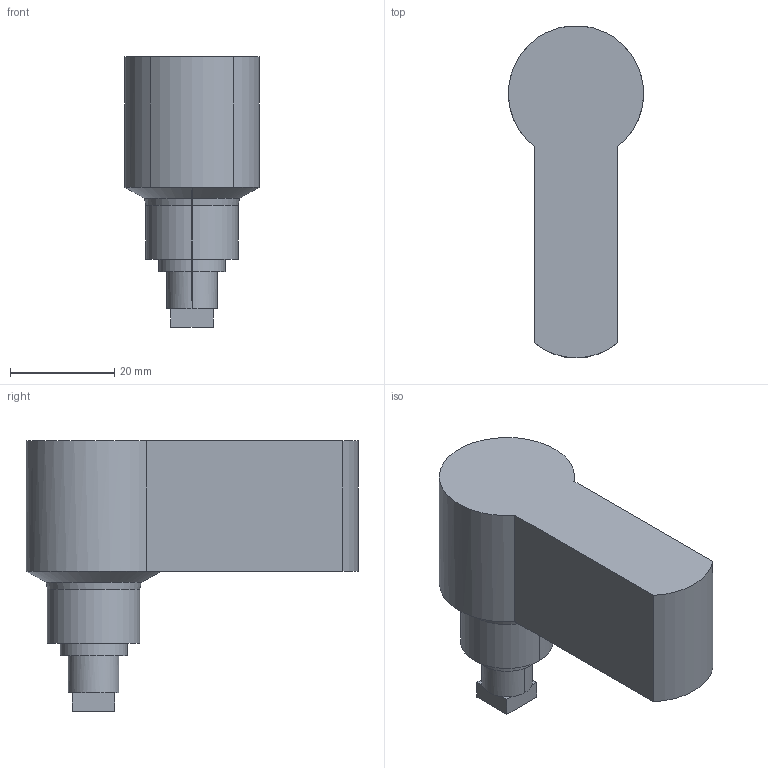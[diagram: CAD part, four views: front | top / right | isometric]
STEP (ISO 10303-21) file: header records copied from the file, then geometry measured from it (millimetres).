
FILE_DESCRIPTION((''),'1');
FILE_NAME('1','2001-04-18T',('jlue'),(''),'PRO/ENGINEER BY PARAMETRIC TECHNOLOGY CORPORATION, 9846','PRO/ENGINEER BY PARAMETRIC TECHNOLOGY CORPORATION, 9846','');
FILE_SCHEMA(('CONFIG_CONTROL_DESIGN'));
Length unit declared in the file: millimetre
Products named in the file (1): 1
Bounding box: 25.87 x 63.6 x 51.77 mm (x, y, z)
Surface area: 7278.6 mm2 (no closed solid volume)
Topology: 0 solids, 0 shells, 31 faces, 141 edges, 142 vertices
Faces by surface type: plane 19, cylinder 8, cone 4
Entity records: 806 total; most frequent: DIRECTION 167, COMPOSITE_CURVE_SEGMENT 140, CARTESIAN_POINT 105, TRIMMED_CURVE 74, AXIS2_PLACEMENT_3D 62, VECTOR 43, LINE 43, CURVE_BOUNDED_SURFACE 31
